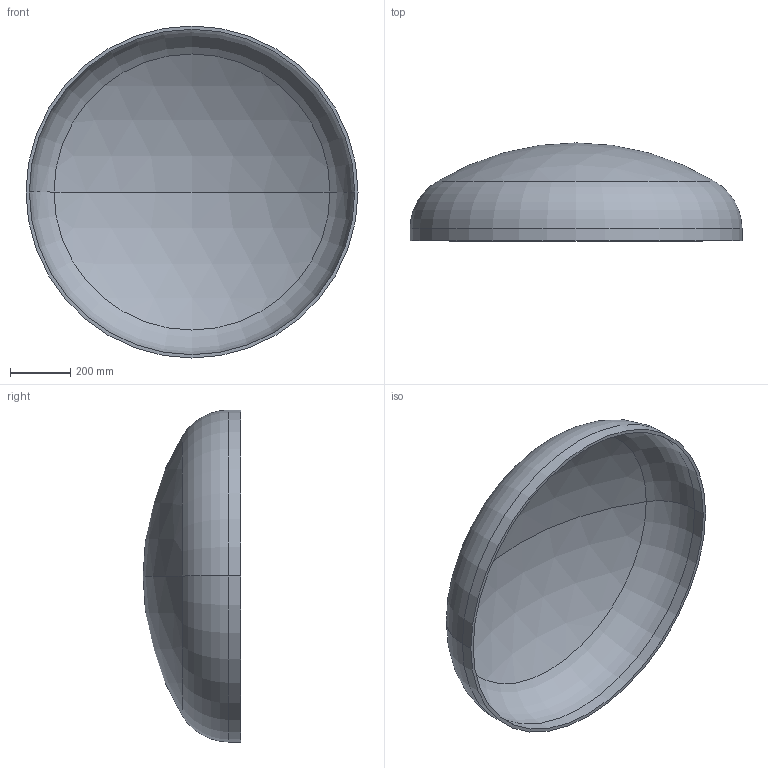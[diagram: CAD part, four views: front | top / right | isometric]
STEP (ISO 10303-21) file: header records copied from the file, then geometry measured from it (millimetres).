
FILE_DESCRIPTION (( 'STEP AP203' ), '1' );
FILE_NAME ('DIN 28013 Korbbogenform_-_Boden DIN 28013 - 1100 x 40 - I - s=11.step', '2016-07-01T09:01:07', ( '' ), ( '' ), 'SwSTEP 2.0', 'SolidWorks 2013', '' );
FILE_SCHEMA (( 'CONFIG_CONTROL_DESIGN' ));
Length unit declared in the file: millimetre
Products named in the file (1): DIN 28013 Korbbogenform_-_Boden DIN 28013 - 1100 x 40 - I - s=11
Bounding box: 1100 x 324.42 x 1100 mm (x, y, z)
Volume: 15803198.4 mm3; surface area: 2911194.3 mm2
Topology: 1 solids, 1 shells, 13 faces, 24 edges, 14 vertices
Faces by surface type: torus 4, cylinder 4, sphere 4, plane 1
Entity records: 407 total; most frequent: DIRECTION 72, CARTESIAN_POINT 52, ORIENTED_EDGE 48, AXIS2_PLACEMENT_3D 34, EDGE_CURVE 24, CIRCLE 20, EDGE_LOOP 14, VERTEX_POINT 14
